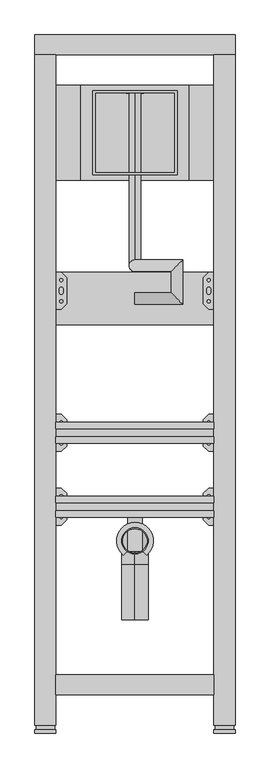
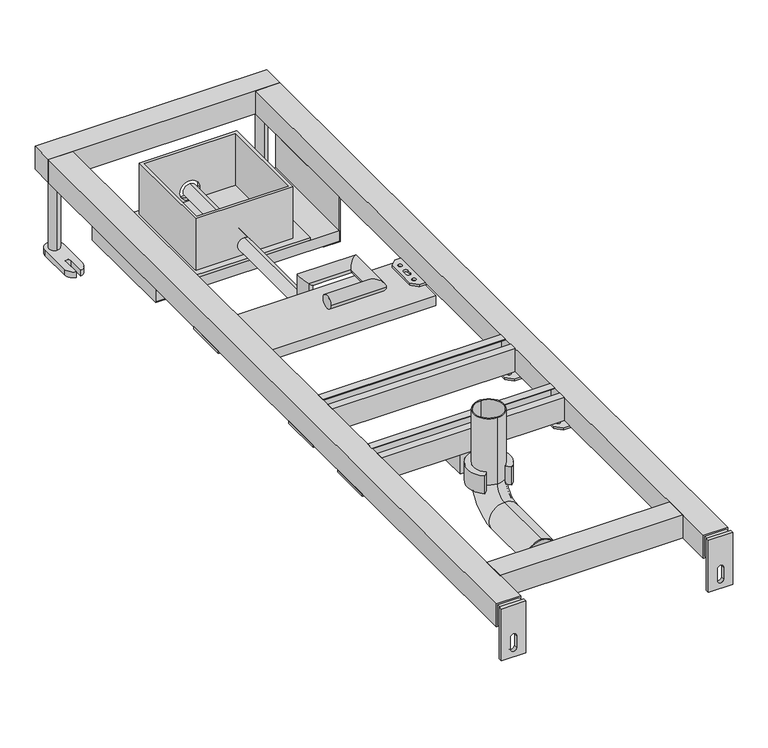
"""IFC4 building model written with IfcOpenShell, lengths in millimetres: flow terminal geometry, LIV-FIX UR 135 IR 9V : LIV-FIX UR 135 IR 9V."""

from ifc_helpers import new_model, si_unit, point, frame, frame_2d, origin, origin_with_axes, place, context, project, spatial, polyline, circle_curve, ellipse_curve, trimmed, segment, composite_curve, outline, extrude, source, transform, mapped, element, save
from ifc_brep_helpers import plane_surface, cylinder_surface, revolved_surface, advanced_brep


def flow_terminal_df86a21f(model_context):
    return source(origin(), model_context, "Body", "SolidModel", [
        advanced_brep(
        [(0.0, 614.0, 147.378088), (0.0, 636.0, 147.378088), (91.0, 614.0, 147.378088), (69.0, 636.0, 147.378088), (91.0, 698.5546816, 147.378088), (69.0, 676.5546816, 147.378088), (0.0, 698.5546816, 147.378088), (0.0, 676.5546816, 147.378088), (0.0, 698.5546816, 115.5), (0.0, 676.5546816, 93.5), (0.0, 1015.0167019, 115.5), (0.0, 1015.0167019, 93.5)],
        [
            (0, 1, circle_curve(frame((0.0, 625.0, 147.378088), z_axis=(-1.0, 0.0, 0.0), x_axis=(0.0, 1.0, 0.0)), 11.0)),
            (1, 0, circle_curve(frame((0.0, 625.0, 147.378088), z_axis=(-1.0, 0.0, 0.0), x_axis=(0.0, 1.0, 0.0)), 11.0)),
            (0, 2),
            (2, 3, ellipse_curve(frame((80.0, 625.0, 147.378088), z_axis=(-0.7071067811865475, -0.7071067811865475, 0.0), x_axis=(-0.7071067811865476, 0.7071067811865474, 0.0)), 15.5563492, 11.0)),
            (3, 1),
            (3, 2, ellipse_curve(frame((80.0, 625.0, 147.378088), z_axis=(-0.7071067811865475, -0.7071067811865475, 0.0), x_axis=(-0.7071067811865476, 0.7071067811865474, 0.0)), 15.5563492, 11.0)),
            (2, 4),
            (4, 5, ellipse_curve(frame((80.0, 687.5546816, 147.378088), z_axis=(0.7071067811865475, -0.7071067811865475, 0.0), x_axis=(-0.7071067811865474, -0.7071067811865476, 0.0)), 15.5563492, 11.0)),
            (5, 3),
            (5, 4, ellipse_curve(frame((80.0, 687.5546816, 147.378088), z_axis=(0.7071067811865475, -0.7071067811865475, 0.0), x_axis=(-0.7071067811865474, -0.7071067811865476, 0.0)), 15.5563492, 11.0)),
            (4, 6),
            (6, 7, ellipse_curve(frame((0.0, 687.5546816, 147.378088), z_axis=(0.7071067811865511, 0.0, 0.7071067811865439), x_axis=(0.7071067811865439, 0.0, -0.7071067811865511)), 15.5563492, 11.0)),
            (7, 5),
            (7, 6, ellipse_curve(frame((0.0, 687.5546816, 147.378088), z_axis=(0.7071067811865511, 0.0, 0.7071067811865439), x_axis=(0.7071067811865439, 0.0, -0.7071067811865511)), 15.5563492, 11.0)),
            (6, 8),
            (8, 9, ellipse_curve(frame((0.0, 687.5546816, 104.5), z_axis=(0.0, -0.7071067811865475, 0.7071067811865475), x_axis=(0.0, 0.7071067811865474, 0.7071067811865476)), 15.5563492, 11.0)),
            (9, 7),
            (9, 8, ellipse_curve(frame((0.0, 687.5546816, 104.5), z_axis=(0.0, -0.7071067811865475, 0.7071067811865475), x_axis=(0.0, 0.7071067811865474, 0.7071067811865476)), 15.5563492, 11.0)),
            (10, 11, circle_curve(frame((0.0, 1015.0167019, 104.5), z_axis=(0.0, 1.0, 0.0), x_axis=(0.0, 0.0, -1.0)), 11.0)),
            (11, 10, circle_curve(frame((0.0, 1015.0167019, 104.5), z_axis=(0.0, 1.0, 0.0), x_axis=(0.0, 0.0, -1.0)), 11.0)),
            (8, 10),
            (11, 9),
        ],
        [
            plane_surface(frame((0.0, 625.0, 136.378088), z_axis=(-1.0, 0.0, 0.0), x_axis=(0.0, 1.0, 0.0))),
            cylinder_surface(frame((0.0, 625.0, 147.378088), z_axis=(-1.0, 0.0, 0.0), x_axis=(0.0, 1.0, 0.0)), 11.0),
            cylinder_surface(frame((80.0, 625.0, 147.378088), z_axis=(0.0, -1.0, 0.0), x_axis=(-1.0, 0.0, 0.0)), 11.0),
            cylinder_surface(frame((80.0, 687.5546816, 147.378088), z_axis=(1.0, 0.0, 0.0), x_axis=(0.0, -1.0, 0.0)), 11.0),
            cylinder_surface(frame((0.0, 687.5546816, 147.378088), z_axis=(0.0, 0.0, 1.0), x_axis=(0.0, -1.0, 0.0)), 11.0),
            plane_surface(frame((-11.0, 1015.0167019, 104.5), z_axis=(0.0, 1.0, 0.0), x_axis=(0.0, 0.0, 1.0))),
            cylinder_surface(frame((0.0, 687.5546816, 104.5), z_axis=(0.0, -1.0, 0.0), x_axis=(0.0, 0.0, -1.0)), 11.0),
        ],
        [
            (0, [[1, 2]]),
            (1, [[-1, 3, 4, 5]]),
            (1, [[-2, -5, 6, -3]]),
            (2, [[-4, 7, 8, 9]]),
            (2, [[-6, -9, 10, -7]]),
            (3, [[-8, 11, 12, 13]]),
            (3, [[-10, -13, 14, -11]]),
            (4, [[-12, 15, 16, 17]]),
            (4, [[-14, -17, 18, -15]]),
            (5, [[19, 20]]),
            (6, [[-16, 21, -20, 22]]),
            (6, [[-18, -22, -19, -21]]),
        ],
    ),
        extrude(outline(polyline([(102.4676142, 1030.1667019), (102.4676142, 850.0770204), (-102.5323858, 850.0770204), (-102.5323858, 1030.1667019), (102.4676142, 1030.1667019)])), frame((0.0, 0.0, 81.5), z_axis=(0.0, 0.0, 1.0), x_axis=(1.0, 0.0, 0.0)), (0.0, 0.0, 1.0), 5.0),
        advanced_brep(
        [(-79.85, 1020.0167019, 176.5), (-79.85, 860.2270204, 176.5), (79.85, 860.2270204, 176.5), (79.85, 1020.0167019, 176.5), (74.85, 1015.0167019, 176.5), (74.85, 865.2270204, 176.5), (-74.85, 865.2270204, 176.5), (-74.85, 1015.0167019, 176.5), (-79.85, 1020.0167019, 81.5), (79.85, 1020.0167019, 81.5), (79.85, 860.2270204, 81.5), (-79.85, 860.2270204, 81.5), (74.85, 1015.0167019, 81.5), (-74.85, 1015.0167019, 81.5), (-74.85, 865.2270204, 81.5), (74.85, 865.2270204, 81.5), (11.0, 865.2270204, 104.5), (-11.0, 865.2270204, 104.5), (-16.25, 1015.0167019, 104.5), (16.25, 1015.0167019, 104.5), (-11.0, 860.2270204, 104.5), (11.0, 860.2270204, 104.5), (16.25, 1020.0167019, 104.5), (-16.25, 1020.0167019, 104.5)],
        [
            (0, 1),
            (1, 2),
            (2, 3),
            (3, 0),
            (4, 5),
            (5, 6),
            (6, 7),
            (7, 4),
            (8, 9),
            (9, 10),
            (10, 11),
            (11, 8),
            (12, 13),
            (13, 14),
            (14, 15),
            (15, 12),
            (4, 12),
            (15, 5),
            (14, 6),
            (16, 17, circle_curve(frame((0.0, 865.2270204, 104.5), z_axis=(0.0, -1.0, 0.0), x_axis=(1.0, 0.0, 0.0)), 11.0)),
            (17, 16, circle_curve(frame((0.0, 865.2270204, 104.5), z_axis=(0.0, -1.0, 0.0), x_axis=(1.0, 0.0, 0.0)), 11.0)),
            (13, 7),
            (18, 19, circle_curve(frame((0.0, 1015.0167019, 104.5), z_axis=(0.0, 1.0, 0.0), x_axis=(-1.0, 0.0, 0.0)), 16.25)),
            (19, 18, circle_curve(frame((0.0, 1015.0167019, 104.5), z_axis=(0.0, 1.0, 0.0), x_axis=(-1.0, 0.0, 0.0)), 16.25)),
            (0, 8),
            (11, 1),
            (10, 2),
            (20, 21, circle_curve(frame((0.0, 860.2270204, 104.5), z_axis=(0.0, 1.0, 0.0), x_axis=(1.0, 0.0, 0.0)), 11.0)),
            (21, 20, circle_curve(frame((0.0, 860.2270204, 104.5), z_axis=(0.0, 1.0, 0.0), x_axis=(1.0, 0.0, 0.0)), 11.0)),
            (9, 3),
            (22, 23, circle_curve(frame((0.0, 1020.0167019, 104.5), z_axis=(0.0, -1.0, 0.0), x_axis=(-1.0, 0.0, 0.0)), 16.25)),
            (23, 22, circle_curve(frame((0.0, 1020.0167019, 104.5), z_axis=(0.0, -1.0, 0.0), x_axis=(-1.0, 0.0, 0.0)), 16.25)),
            (22, 19),
            (18, 23),
            (20, 17),
            (16, 21),
        ],
        [
            plane_surface(frame((74.85, 1015.0167019, 176.5), z_axis=(0.0, 0.0, 1.0), x_axis=(0.0, -1.0, 0.0))),
            plane_surface(frame((74.85, 1015.0167019, 81.5), z_axis=(0.0, 0.0, -1.0), x_axis=(0.0, 1.0, 0.0))),
            plane_surface(frame((74.85, 1015.0167019, 176.5), z_axis=(-1.0, 0.0, 0.0), x_axis=(0.0, 0.0, -1.0))),
            plane_surface(frame((74.85, 865.2270204, 176.5), z_axis=(0.0, 1.0, 0.0), x_axis=(0.0, 0.0, -1.0))),
            plane_surface(frame((-74.85, 865.2270204, 176.5), z_axis=(1.0, 0.0, 0.0), x_axis=(0.0, 0.0, -1.0))),
            plane_surface(frame((-74.85, 1015.0167019, 176.5), z_axis=(0.0, -1.0, 0.0), x_axis=(0.0, 0.0, -1.0))),
            plane_surface(frame((-79.85, 1020.0167019, 176.5), z_axis=(-1.0, 0.0, 0.0), x_axis=(0.0, 0.0, -1.0))),
            plane_surface(frame((-79.85, 860.2270204, 176.5), z_axis=(0.0, -1.0, 0.0), x_axis=(0.0, 0.0, -1.0))),
            plane_surface(frame((79.85, 860.2270204, 176.5), z_axis=(1.0, 0.0, 0.0), x_axis=(0.0, 0.0, -1.0))),
            plane_surface(frame((79.85, 1020.0167019, 176.5), z_axis=(0.0, 1.0, 0.0), x_axis=(0.0, 0.0, -1.0))),
            revolved_surface(polyline([(-16.25, 1015.0167019, 104.5), (-16.25, 1020.0167019, 104.5)]), (0.0, 1020.0167019, 104.5), (0.0, -1.0, 0.0)),
            revolved_surface(polyline([(11.0, 865.2270204, 104.5), (11.0, 860.2270204, 104.5)]), (0.0, 860.2270204, 104.5), (0.0, 1.0, 0.0)),
        ],
        [
            (0, [[1, 2, 3, 4], [5, 6, 7, 8]]),
            (1, [[9, 10, 11, 12], [13, 14, 15, 16]]),
            (2, [[-5, 17, -16, 18]]),
            (3, [[-6, -18, -15, 19], [20, 21]]),
            (4, [[-7, -19, -14, 22]]),
            (5, [[-8, -22, -13, -17], [23, 24]]),
            (6, [[-1, 25, -12, 26]]),
            (7, [[-2, -26, -11, 27], [28, 29]]),
            (8, [[-3, -27, -10, 30]]),
            (9, [[-4, -30, -9, -25], [31, 32]]),
            (10, [[33, -23, 34, -31]]),
            (10, [[-33, -32, -34, -24]]),
            (11, [[35, -20, 36, -28]]),
            (11, [[-35, -29, -36, -21]]),
        ],
    ),
        extrude(outline(polyline([(150.0, 1030.1667019), (150.0, 850.0770204), (-150.0, 850.0770204), (-150.0, 1030.1667019), (150.0, 1030.1667019)])), frame((0.0, 0.0, 63.5), z_axis=(0.0, 0.0, 1.0), x_axis=(1.0, 0.0, 0.0)), (0.0, 0.0, 1.0), 18.0),
        extrude(outline(polyline([(140.0, 185.0), (140.0, 150.0), (63.5, 150.0), (63.5, 123.5), (62.0, 123.5), (62.0, 151.5), (138.5, 151.5), (138.5, 185.0), (140.0, 185.0)])), frame((0.0, 850.0770204, 0.0), z_axis=(0.0, 1.0, 0.0), x_axis=(0.0, 0.0, 1.0)), (0.0, 0.0, 1.0), 180.0896815),
        extrude(outline(polyline([(140.0, -185.0), (138.5, -185.0), (138.5, -151.5), (62.0, -151.5), (62.0, -123.5), (63.5, -123.5), (63.5, -150.0), (140.0, -150.0), (140.0, -185.0)])), frame((0.0, 850.0770204, 0.0), z_axis=(0.0, 1.0, 0.0), x_axis=(0.0, 0.0, 1.0)), (0.0, 0.0, 1.0), 180.0896815),
        extrude(outline(polyline([(350.0, 180.0), (362.4845167, 180.0), (362.4845167, 178.5), (351.5, 178.5), (351.5, 141.5), (388.5, 141.5), (388.5, 178.5), (377.5154833, 178.5), (377.5154833, 180.0), (390.0, 180.0), (390.0, 140.0), (350.0, 140.0), (350.0, 180.0)])), frame((-150.0, 0.0, 0.0), z_axis=(1.0, 0.0, 0.0), x_axis=(0.0, 1.0, 0.0)), (0.0, 0.0, 1.0), 300.0),
        extrude(outline(polyline([(140.0, 335.0), (130.0, 345.0), (130.0, 395.0), (140.0, 405.0), (190.0, 405.0), (190.0, 335.0), (140.0, 335.0)]), holes=[composite_curve([segment(trimmed(circle_curve(frame_2d((175.0, 370.0)), 4.5), [point((175.0, 365.5))], [point((175.0, 374.5))], True, "CARTESIAN"), True, "CONTINUOUS"), segment(trimmed(circle_curve(frame_2d((175.0, 370.0)), 4.5), [point((175.0, 374.5))], [point((175.0, 365.5))], True, "CARTESIAN"), True, "CONTINUOUS")], self_intersect=False), composite_curve([segment(trimmed(circle_curve(frame_2d((175.0, 390.0)), 4.5), [point((175.0, 385.5))], [point((175.0, 394.5))], True, "CARTESIAN"), True, "CONTINUOUS"), segment(trimmed(circle_curve(frame_2d((175.0, 390.0)), 4.5), [point((175.0, 394.5))], [point((175.0, 385.5))], True, "CARTESIAN"), True, "CONTINUOUS")], self_intersect=False), composite_curve([segment(trimmed(circle_curve(frame_2d((175.0, 350.0)), 4.5), [point((175.0, 345.5))], [point((175.0, 354.5))], True, "CARTESIAN"), True, "CONTINUOUS"), segment(trimmed(circle_curve(frame_2d((175.0, 350.0)), 4.5), [point((175.0, 354.5))], [point((175.0, 345.5))], True, "CARTESIAN"), True, "CONTINUOUS")], self_intersect=False), composite_curve([segment(trimmed(circle_curve(frame_2d((140.0, 390.0)), 2.9795218), [point((140.0, 387.0204782))], [point((140.0, 392.9795218))], True, "CARTESIAN"), True, "CONTINUOUS"), segment(trimmed(circle_curve(frame_2d((140.0, 390.0)), 2.9795218), [point((140.0, 392.9795218))], [point((140.0, 387.0204782))], True, "CARTESIAN"), True, "CONTINUOUS")], self_intersect=False), composite_curve([segment(trimmed(circle_curve(frame_2d((140.0, 350.0)), 2.9795218), [point((140.0, 347.0204782))], [point((140.0, 352.9795218))], True, "CARTESIAN"), True, "CONTINUOUS"), segment(trimmed(circle_curve(frame_2d((140.0, 350.0)), 2.9795218), [point((140.0, 352.9795218))], [point((140.0, 347.0204782))], True, "CARTESIAN"), True, "CONTINUOUS")], self_intersect=False), composite_curve([segment(trimmed(circle_curve(frame_2d((140.0, 373.5)), 3.5), [point((143.5, 373.5))], [point((136.5, 373.5))], True, "CARTESIAN"), True, "CONTINUOUS"), segment(polyline([(136.5, 373.5), (136.5, 366.5)]), True, "CONTINUOUS"), segment(trimmed(circle_curve(frame_2d((140.0, 366.5)), 3.5), [point((136.5, 366.5))], [point((143.5, 366.5))], True, "CARTESIAN"), True, "CONTINUOUS"), segment(polyline([(143.5, 366.5), (143.5, 373.5)]), True, "CONTINUOUS")], self_intersect=False)]), frame((0.0, 0.0, 136.0), z_axis=(0.0, 0.0, 1.0), x_axis=(1.0, 0.0, 0.0)), (0.0, 0.0, 1.0), 4.0),
        extrude(outline(polyline([(-140.0, 335.0), (-190.0, 335.0), (-190.0, 405.0), (-140.0, 405.0), (-130.0, 395.0), (-130.0, 345.0), (-140.0, 335.0)]), holes=[composite_curve([segment(trimmed(circle_curve(frame_2d((-175.0, 370.0)), 4.5), [point((-175.0, 365.5))], [point((-175.0, 374.5))], True, "CARTESIAN"), True, "CONTINUOUS"), segment(trimmed(circle_curve(frame_2d((-175.0, 370.0)), 4.5), [point((-175.0, 374.5))], [point((-175.0, 365.5))], True, "CARTESIAN"), True, "CONTINUOUS")], self_intersect=False), composite_curve([segment(trimmed(circle_curve(frame_2d((-175.0, 390.0)), 4.5), [point((-175.0, 385.5))], [point((-175.0, 394.5))], True, "CARTESIAN"), True, "CONTINUOUS"), segment(trimmed(circle_curve(frame_2d((-175.0, 390.0)), 4.5), [point((-175.0, 394.5))], [point((-175.0, 385.5))], True, "CARTESIAN"), True, "CONTINUOUS")], self_intersect=False), composite_curve([segment(trimmed(circle_curve(frame_2d((-175.0, 350.0)), 4.5), [point((-175.0, 345.5))], [point((-175.0, 354.5))], True, "CARTESIAN"), True, "CONTINUOUS"), segment(trimmed(circle_curve(frame_2d((-175.0, 350.0)), 4.5), [point((-175.0, 354.5))], [point((-175.0, 345.5))], True, "CARTESIAN"), True, "CONTINUOUS")], self_intersect=False), composite_curve([segment(trimmed(circle_curve(frame_2d((-140.0, 390.0)), 2.9795218), [point((-140.0, 387.0204782))], [point((-140.0, 392.9795218))], True, "CARTESIAN"), True, "CONTINUOUS"), segment(trimmed(circle_curve(frame_2d((-140.0, 390.0)), 2.9795218), [point((-140.0, 392.9795218))], [point((-140.0, 387.0204782))], True, "CARTESIAN"), True, "CONTINUOUS")], self_intersect=False), composite_curve([segment(trimmed(circle_curve(frame_2d((-140.0, 350.0)), 2.9795218), [point((-140.0, 347.0204782))], [point((-140.0, 352.9795218))], True, "CARTESIAN"), True, "CONTINUOUS"), segment(trimmed(circle_curve(frame_2d((-140.0, 350.0)), 2.9795218), [point((-140.0, 352.9795218))], [point((-140.0, 347.0204782))], True, "CARTESIAN"), True, "CONTINUOUS")], self_intersect=False), composite_curve([segment(polyline([(-143.5, 373.5), (-143.5, 366.5)]), True, "CONTINUOUS"), segment(trimmed(circle_curve(frame_2d((-140.0, 366.5)), 3.5), [point((-143.5, 366.5))], [point((-136.5, 366.5))], True, "CARTESIAN"), True, "CONTINUOUS"), segment(polyline([(-136.5, 366.5), (-136.5, 373.5)]), True, "CONTINUOUS"), segment(trimmed(circle_curve(frame_2d((-140.0, 373.5)), 3.5), [point((-136.5, 373.5))], [point((-143.5, 373.5))], True, "CARTESIAN"), True, "CONTINUOUS")], self_intersect=False)]), frame((0.0, 0.0, 136.0), z_axis=(0.0, 0.0, 1.0), x_axis=(1.0, 0.0, 0.0)), (0.0, 0.0, 1.0), 4.0),
        extrude(outline(polyline([(150.0, 675.0), (150.0, 575.0), (-150.0, 575.0), (-150.0, 675.0), (150.0, 675.0)])), frame((0.0, 0.0, 118.0), z_axis=(0.0, 0.0, 1.0), x_axis=(1.0, 0.0, 0.0)), (0.0, 0.0, 1.0), 18.0),
        advanced_brep(
        [(-14.0, 145.7552373, 116.5), (14.0, 145.7552373, 116.5), (14.0, 145.7552373, 130.0), (-14.0, 145.7552373, 130.0), (-14.0, 250.0, 116.5), (-14.0, 250.0, 130.0), (14.0, 250.0, 130.0), (14.0, 250.0, 116.5), (-14.0, 185.7123152, 116.5), (-15.0727332, 145.0547571, 116.5), (-22.1922786, 137.9352116, 116.5), (-14.0, 197.0780299, 116.5), (14.0, 197.0780299, 116.5), (22.1922786, 137.9352116, 116.5), (15.0727332, 145.0547571, 116.5), (14.0, 185.7123152, 116.5), (14.0, 185.7123152, 130.0), (14.0, 197.0780299, 130.0), (-14.0, 185.7123152, 130.0), (-14.0, 197.0780299, 130.0), (0.0, 200.0, 130.0), (15.0727332, 145.0547571, 147.5), (22.1922786, 137.9352116, 147.5), (0.0, 200.0, 147.5), (-22.1922786, 137.9352116, 147.5), (-15.0727332, 145.0547571, 147.5)],
        [
            (0, 1),
            (1, 2),
            (2, 3),
            (3, 0),
            (4, 5),
            (5, 6),
            (6, 7),
            (7, 4),
            (0, 8),
            (8, 9, circle_curve(frame((0.0, 165.0, 116.5), z_axis=(0.0, 0.0, 1.0), x_axis=(0.0, -1.0, 0.0)), 25.0)),
            (9, 10),
            (10, 11, circle_curve(frame((0.0, 165.0, 116.5), z_axis=(0.0, 0.0, -1.0), x_axis=(0.0, -1.0, 0.0)), 35.0)),
            (11, 4),
            (7, 12),
            (12, 13, circle_curve(frame((0.0, 165.0, 116.5), z_axis=(0.0, 0.0, -1.0), x_axis=(0.0, -1.0, 0.0)), 35.0)),
            (13, 14),
            (14, 15, circle_curve(frame((0.0, 165.0, 116.5), z_axis=(0.0, 0.0, 1.0), x_axis=(0.0, -1.0, 0.0)), 25.0)),
            (15, 1),
            (15, 16),
            (16, 2),
            (6, 17),
            (17, 12),
            (16, 18, circle_curve(frame((0.0, 165.0, 130.0), z_axis=(0.0, 0.0, 1.0), x_axis=(0.0, -1.0, 0.0)), 25.0)),
            (18, 3),
            (5, 19),
            (19, 20, circle_curve(frame((0.0, 165.0, 130.0), z_axis=(0.0, 0.0, -1.0), x_axis=(0.0, -1.0, 0.0)), 35.0)),
            (20, 17, circle_curve(frame((0.0, 165.0, 130.0), z_axis=(0.0, 0.0, -1.0), x_axis=(0.0, -1.0, 0.0)), 35.0)),
            (18, 8),
            (11, 19),
            (21, 22),
            (22, 23, circle_curve(frame((0.0, 165.0, 147.5), z_axis=(0.0, 0.0, 1.0), x_axis=(0.0, -1.0, 0.0)), 35.0)),
            (23, 24, circle_curve(frame((0.0, 165.0, 147.5), z_axis=(0.0, 0.0, 1.0), x_axis=(0.0, -1.0, 0.0)), 35.0)),
            (24, 25),
            (25, 21, circle_curve(frame((0.0, 165.0, 147.5), z_axis=(0.0, 0.0, -1.0), x_axis=(0.0, -1.0, 0.0)), 25.0)),
            (25, 9),
            (14, 21),
            (24, 10),
            (23, 20),
            (22, 13),
        ],
        [
            plane_surface(frame((-14.0, 145.7552373, 116.5), z_axis=(0.0, -1.0, 0.0), x_axis=(0.0, 0.0, -1.0))),
            plane_surface(frame((-14.0, 250.0, 116.5), z_axis=(0.0, 1.0, 0.0), x_axis=(0.0, 0.0, 1.0))),
            plane_surface(frame((14.0, 250.0, 116.5), z_axis=(0.0, 0.0, -1.0), x_axis=(0.0, -1.0, 0.0))),
            plane_surface(frame((14.0, 250.0, 130.0), z_axis=(1.0, 0.0, 0.0), x_axis=(0.0, -1.0, 0.0))),
            plane_surface(frame((-14.0, 250.0, 130.0), z_axis=(0.0, 0.0, 1.0), x_axis=(0.0, -1.0, 0.0))),
            plane_surface(frame((-14.0, 250.0, 116.5), z_axis=(-1.0, 0.0, 0.0), x_axis=(0.0, -1.0, 0.0))),
            plane_surface(frame((0.0, 140.0, 147.5), z_axis=(0.0, 0.0, 1.0), x_axis=(-1.0, 0.0, 0.0))),
            revolved_surface(polyline([(0.0, 140.0, 147.5), (0.0, 140.0, 116.5)]), (0.0, 165.0, 147.5), (0.0, 0.0, 1.0)),
            plane_surface(frame((-15.0727332, 145.0547571, 116.5), z_axis=(0.7071067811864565, -0.7071067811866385, 0.0), x_axis=(0.0, 0.0, 1.0))),
            cylinder_surface(frame((0.0, 165.0, 147.5), z_axis=(0.0, 0.0, -1.0), x_axis=(0.0, -1.0, 0.0)), 35.0),
            plane_surface(frame((22.1922786, 137.9352116, 116.5), z_axis=(-0.707106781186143, -0.7071067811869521, 0.0), x_axis=(0.0, 0.0, 1.0))),
        ],
        [
            (0, [[1, 2, 3, 4]]),
            (1, [[5, 6, 7, 8]]),
            (2, [[-1, 9, 10, 11, 12, 13, -8, 14, 15, 16, 17, 18]]),
            (3, [[-2, -18, 19, 20]]),
            (3, [[-7, 21, 22, -14]]),
            (4, [[-3, -20, 23, 24]]),
            (4, [[-6, 25, 26, 27, -21]]),
            (5, [[-4, -24, 28, -9]]),
            (5, [[-5, -13, 29, -25]]),
            (6, [[30, 31, 32, 33, 34]]),
            (7, [[-34, 35, -10, -28, -23, -19, -17, 36]]),
            (8, [[-33, 37, -11, -35]]),
            (9, [[-32, 38, -26, -29, -12, -37]]),
            (9, [[-31, 39, -15, -22, -27, -38]]),
            (10, [[-30, -36, -16, -39]]),
        ],
    ),
        extrude(outline(polyline([(210.0, 180.0), (222.4845167, 180.0), (222.4845167, 178.5), (211.5, 178.5), (211.5, 141.5), (248.5, 141.5), (248.5, 178.5), (237.5154833, 178.5), (237.5154833, 180.0), (250.0, 180.0), (250.0, 140.0), (210.0, 140.0), (210.0, 180.0)])), frame((-150.0, 0.0, 0.0), z_axis=(1.0, 0.0, 0.0), x_axis=(0.0, 1.0, 0.0)), (0.0, 0.0, 1.0), 300.0),
        extrude(outline(polyline([(140.0, 605.0), (130.0, 615.0), (130.0, 665.0), (140.0, 675.0), (190.0, 675.0), (190.0, 605.0), (140.0, 605.0)]), holes=[composite_curve([segment(trimmed(circle_curve(frame_2d((175.0, 640.0)), 4.5), [point((175.0, 635.5))], [point((175.0, 644.5))], True, "CARTESIAN"), True, "CONTINUOUS"), segment(trimmed(circle_curve(frame_2d((175.0, 640.0)), 4.5), [point((175.0, 644.5))], [point((175.0, 635.5))], True, "CARTESIAN"), True, "CONTINUOUS")], self_intersect=False), composite_curve([segment(trimmed(circle_curve(frame_2d((175.0, 660.0)), 4.5), [point((175.0, 655.5))], [point((175.0, 664.5))], True, "CARTESIAN"), True, "CONTINUOUS"), segment(trimmed(circle_curve(frame_2d((175.0, 660.0)), 4.5), [point((175.0, 664.5))], [point((175.0, 655.5))], True, "CARTESIAN"), True, "CONTINUOUS")], self_intersect=False), composite_curve([segment(trimmed(circle_curve(frame_2d((175.0, 620.0)), 4.5), [point((175.0, 615.5))], [point((175.0, 624.5))], True, "CARTESIAN"), True, "CONTINUOUS"), segment(trimmed(circle_curve(frame_2d((175.0, 620.0)), 4.5), [point((175.0, 624.5))], [point((175.0, 615.5))], True, "CARTESIAN"), True, "CONTINUOUS")], self_intersect=False), composite_curve([segment(trimmed(circle_curve(frame_2d((140.0, 660.0)), 2.9795218), [point((140.0, 657.0204782))], [point((140.0, 662.9795218))], True, "CARTESIAN"), True, "CONTINUOUS"), segment(trimmed(circle_curve(frame_2d((140.0, 660.0)), 2.9795218), [point((140.0, 662.9795218))], [point((140.0, 657.0204782))], True, "CARTESIAN"), True, "CONTINUOUS")], self_intersect=False), composite_curve([segment(trimmed(circle_curve(frame_2d((140.0, 620.0)), 2.9795218), [point((140.0, 617.0204782))], [point((140.0, 622.9795218))], True, "CARTESIAN"), True, "CONTINUOUS"), segment(trimmed(circle_curve(frame_2d((140.0, 620.0)), 2.9795218), [point((140.0, 622.9795218))], [point((140.0, 617.0204782))], True, "CARTESIAN"), True, "CONTINUOUS")], self_intersect=False), composite_curve([segment(trimmed(circle_curve(frame_2d((140.0, 643.5)), 3.5), [point((143.5, 643.5))], [point((136.5, 643.5))], True, "CARTESIAN"), True, "CONTINUOUS"), segment(polyline([(136.5, 643.5), (136.5, 636.5)]), True, "CONTINUOUS"), segment(trimmed(circle_curve(frame_2d((140.0, 636.5)), 3.5), [point((136.5, 636.5))], [point((143.5, 636.5))], True, "CARTESIAN"), True, "CONTINUOUS"), segment(polyline([(143.5, 636.5), (143.5, 643.5)]), True, "CONTINUOUS")], self_intersect=False)]), frame((0.0, 0.0, 136.0), z_axis=(0.0, 0.0, 1.0), x_axis=(1.0, 0.0, 0.0)), (0.0, 0.0, 1.0), 4.0),
        extrude(outline(polyline([(-140.0, 605.0), (-190.0, 605.0), (-190.0, 675.0), (-140.0, 675.0), (-130.0, 665.0), (-130.0, 615.0), (-140.0, 605.0)]), holes=[composite_curve([segment(trimmed(circle_curve(frame_2d((-175.0, 640.0)), 4.5), [point((-175.0, 635.5))], [point((-175.0, 644.5))], True, "CARTESIAN"), True, "CONTINUOUS"), segment(trimmed(circle_curve(frame_2d((-175.0, 640.0)), 4.5), [point((-175.0, 644.5))], [point((-175.0, 635.5))], True, "CARTESIAN"), True, "CONTINUOUS")], self_intersect=False), composite_curve([segment(trimmed(circle_curve(frame_2d((-175.0, 660.0)), 4.5), [point((-175.0, 655.5))], [point((-175.0, 664.5))], True, "CARTESIAN"), True, "CONTINUOUS"), segment(trimmed(circle_curve(frame_2d((-175.0, 660.0)), 4.5), [point((-175.0, 664.5))], [point((-175.0, 655.5))], True, "CARTESIAN"), True, "CONTINUOUS")], self_intersect=False), composite_curve([segment(trimmed(circle_curve(frame_2d((-175.0, 620.0)), 4.5), [point((-175.0, 615.5))], [point((-175.0, 624.5))], True, "CARTESIAN"), True, "CONTINUOUS"), segment(trimmed(circle_curve(frame_2d((-175.0, 620.0)), 4.5), [point((-175.0, 624.5))], [point((-175.0, 615.5))], True, "CARTESIAN"), True, "CONTINUOUS")], self_intersect=False), composite_curve([segment(trimmed(circle_curve(frame_2d((-140.0, 660.0)), 2.9795218), [point((-140.0, 657.0204782))], [point((-140.0, 662.9795218))], True, "CARTESIAN"), True, "CONTINUOUS"), segment(trimmed(circle_curve(frame_2d((-140.0, 660.0)), 2.9795218), [point((-140.0, 662.9795218))], [point((-140.0, 657.0204782))], True, "CARTESIAN"), True, "CONTINUOUS")], self_intersect=False), composite_curve([segment(trimmed(circle_curve(frame_2d((-140.0, 620.0)), 2.9795218), [point((-140.0, 617.0204782))], [point((-140.0, 622.9795218))], True, "CARTESIAN"), True, "CONTINUOUS"), segment(trimmed(circle_curve(frame_2d((-140.0, 620.0)), 2.9795218), [point((-140.0, 622.9795218))], [point((-140.0, 617.0204782))], True, "CARTESIAN"), True, "CONTINUOUS")], self_intersect=False), composite_curve([segment(polyline([(-143.5, 643.5), (-143.5, 636.5)]), True, "CONTINUOUS"), segment(trimmed(circle_curve(frame_2d((-140.0, 636.5)), 3.5), [point((-143.5, 636.5))], [point((-136.5, 636.5))], True, "CARTESIAN"), True, "CONTINUOUS"), segment(polyline([(-136.5, 636.5), (-136.5, 643.5)]), True, "CONTINUOUS"), segment(trimmed(circle_curve(frame_2d((-140.0, 643.5)), 3.5), [point((-136.5, 643.5))], [point((-143.5, 643.5))], True, "CARTESIAN"), True, "CONTINUOUS")], self_intersect=False)]), frame((0.0, 0.0, 136.0), z_axis=(0.0, 0.0, 1.0), x_axis=(1.0, 0.0, 0.0)), (0.0, 0.0, 1.0), 4.0),
        advanced_brep(
        [(0.0, 15.0, 55.0), (0.0, 15.0, 105.0), (0.0, 15.0, 57.0), (0.0, 15.0, 103.0), (0.0, 120.0, 55.0), (0.0, 120.0, 105.0), (0.0, 190.0, 240.0), (0.0, 140.0, 240.0), (0.0, 188.0, 240.0), (0.0, 142.0, 240.0), (0.0, 140.0, 125.0), (0.0, 190.0, 125.0), (0.0, 120.0, 57.0), (0.0, 120.0, 103.0), (0.0, 142.0, 125.0), (0.0, 188.0, 125.0)],
        [
            (0, 1, circle_curve(frame((0.0, 15.0, 80.0), z_axis=(0.0, -1.0, 0.0), x_axis=(0.0, 0.0, 1.0)), 25.0)),
            (1, 0, circle_curve(frame((0.0, 15.0, 80.0), z_axis=(0.0, -1.0, 0.0), x_axis=(0.0, 0.0, 1.0)), 25.0)),
            (2, 3, circle_curve(frame((0.0, 15.0, 80.0), z_axis=(0.0, 1.0, 0.0), x_axis=(0.0, 0.0, 1.0)), 23.0)),
            (3, 2, circle_curve(frame((0.0, 15.0, 80.0), z_axis=(0.0, 1.0, 0.0), x_axis=(0.0, 0.0, 1.0)), 23.0)),
            (0, 4),
            (4, 5, circle_curve(frame((0.0, 120.0, 80.0), z_axis=(0.0, -1.0, 0.0), x_axis=(0.0, 0.0, 1.0)), 25.0)),
            (5, 1),
            (5, 4, circle_curve(frame((0.0, 120.0, 80.0), z_axis=(0.0, -1.0, 0.0), x_axis=(0.0, 0.0, 1.0)), 25.0)),
            (6, 7, circle_curve(frame((0.0, 165.0, 240.0), z_axis=(0.0, 0.0, 1.0), x_axis=(0.0, -1.0, 0.0)), 25.0)),
            (7, 6, circle_curve(frame((0.0, 165.0, 240.0), z_axis=(0.0, 0.0, 1.0), x_axis=(0.0, -1.0, 0.0)), 25.0)),
            (8, 9, circle_curve(frame((0.0, 165.0, 240.0), z_axis=(0.0, 0.0, -1.0), x_axis=(0.0, -1.0, 0.0)), 23.0)),
            (9, 8, circle_curve(frame((0.0, 165.0, 240.0), z_axis=(0.0, 0.0, -1.0), x_axis=(0.0, -1.0, 0.0)), 23.0)),
            (10, 11, circle_curve(frame((0.0, 165.0, 125.0), z_axis=(0.0, 0.0, 1.0), x_axis=(0.0, -1.0, 0.0)), 25.0)),
            (11, 6),
            (7, 10),
            (11, 10, circle_curve(frame((0.0, 165.0, 125.0), z_axis=(0.0, 0.0, 1.0), x_axis=(0.0, -1.0, 0.0)), 25.0)),
            (10, 5, circle_curve(frame((0.0, 120.0, 125.0), z_axis=(-1.0, 0.0, 0.0), x_axis=(0.0, 0.0, -1.0)), 20.0)),
            (4, 11, circle_curve(frame((0.0, 120.0, 125.0), z_axis=(1.0, 0.0, 0.0), x_axis=(0.0, 0.0, -1.0)), 70.0)),
            (2, 12),
            (12, 13, circle_curve(frame((0.0, 120.0, 80.0), z_axis=(0.0, 1.0, 0.0), x_axis=(0.0, 0.0, 1.0)), 23.0)),
            (13, 3),
            (13, 12, circle_curve(frame((0.0, 120.0, 80.0), z_axis=(0.0, 1.0, 0.0), x_axis=(0.0, 0.0, 1.0)), 23.0)),
            (14, 13, circle_curve(frame((0.0, 120.0, 125.0), z_axis=(-1.0, 0.0, 0.0), x_axis=(0.0, 0.0, -1.0)), 22.0)),
            (12, 15, circle_curve(frame((0.0, 120.0, 125.0), z_axis=(1.0, 0.0, 0.0), x_axis=(0.0, 0.0, -1.0)), 68.0)),
            (15, 14, circle_curve(frame((0.0, 165.0, 125.0), z_axis=(0.0, 0.0, 1.0), x_axis=(0.0, -1.0, 0.0)), 23.0)),
            (14, 15, circle_curve(frame((0.0, 165.0, 125.0), z_axis=(0.0, 0.0, 1.0), x_axis=(0.0, -1.0, 0.0)), 23.0)),
            (15, 8),
            (9, 14),
        ],
        [
            plane_surface(frame((0.0, 15.0, 80.0), z_axis=(0.0, -1.0, 0.0), x_axis=(1.0, 0.0, 0.0))),
            cylinder_surface(frame((0.0, 15.0, 80.0), z_axis=(0.0, -1.0, 0.0), x_axis=(0.0, 0.0, 1.0)), 25.0),
            plane_surface(frame((0.0, 165.0, 240.0), z_axis=(0.0, 0.0, 1.0), x_axis=(1.0, 0.0, 0.0))),
            cylinder_surface(frame((0.0, 165.0, 125.0), z_axis=(0.0, 0.0, -1.0), x_axis=(0.0, -1.0, 0.0)), 25.0),
            revolved_surface(trimmed(ellipse_curve(frame((0.0, 120.0, 80.0), z_axis=(0.0, -1.0, 0.0), x_axis=(0.0, 0.0, 1.0)), 25.0, 25.0), [point((0.0, 120.0, 55.0))], [point((0.0, 120.0, 105.0))], True, "CARTESIAN"), (0.0, 120.0, 125.0), (1.0, 0.0, 0.0)),
            revolved_surface(trimmed(ellipse_curve(frame((0.0, 120.0, 80.0), z_axis=(0.0, -1.0, 0.0), x_axis=(0.0, 0.0, 1.0)), 25.0, 25.0), [point((0.0, 120.0, 105.0))], [point((0.0, 120.0, 55.0))], True, "CARTESIAN"), (0.0, 120.0, 125.0), (1.0, 0.0, 0.0)),
            revolved_surface(polyline([(0.0, 120.0, 103.0), (0.0, 15.0, 103.0)]), (0.0, 15.0, 80.0), (0.0, 1.0, 0.0)),
            revolved_surface(trimmed(ellipse_curve(frame((0.0, 120.0, 80.0), z_axis=(0.0, 1.0, 0.0), x_axis=(0.0, 0.0, 1.0)), 23.0, 23.0), [point((0.0, 120.0, 57.0))], [point((0.0, 120.0, 103.0))], True, "CARTESIAN"), (0.0, 120.0, 125.0), (1.0, 0.0, 0.0)),
            revolved_surface(trimmed(ellipse_curve(frame((0.0, 120.0, 80.0), z_axis=(0.0, 1.0, 0.0), x_axis=(0.0, 0.0, 1.0)), 23.0, 23.0), [point((0.0, 120.0, 103.0))], [point((0.0, 120.0, 57.0))], True, "CARTESIAN"), (0.0, 120.0, 125.0), (1.0, 0.0, 0.0)),
            revolved_surface(polyline([(0.0, 142.0, 240.0), (0.0, 142.0, 125.0)]), (0.0, 165.0, 125.0), (0.0, 0.0, 1.0)),
        ],
        [
            (0, [[1, 2], [3, 4]]),
            (1, [[-1, 5, 6, 7]]),
            (1, [[-2, -7, 8, -5]]),
            (2, [[9, 10], [11, 12]]),
            (3, [[13, 14, -10, 15]]),
            (3, [[16, -15, -9, -14]]),
            (4, [[17, -6, 18, -13]]),
            (5, [[-18, -8, -17, -16]]),
            (6, [[-3, 19, 20, 21]]),
            (6, [[-4, -21, 22, -19]]),
            (7, [[23, -20, 24, 25]]),
            (8, [[-24, -22, -23, 26]]),
            (9, [[-25, 27, -12, 28]]),
            (9, [[-26, -28, -11, -27]]),
        ],
    ),
        extrude(outline(polyline([(140.0, 20.9285173), (140.0, -20.5714827), (106.5, -20.5714827), (106.5, 20.9285173), (140.0, 20.9285173)]), holes=[polyline([(132.5, 13.75), (114.0, 13.75), (114.0, -13.75), (132.5, -13.75), (132.5, 13.75)])]), frame((0.0, 210.0, 0.0), z_axis=(0.0, 1.0, 0.0), x_axis=(0.0, 0.0, 1.0)), (0.0, 0.0, 1.0), 40.0),
        extrude(outline(polyline([(140.0, 195.0), (130.0, 205.0), (130.0, 255.0), (140.0, 265.0), (190.0, 265.0), (190.0, 195.0), (140.0, 195.0)]), holes=[composite_curve([segment(trimmed(circle_curve(frame_2d((175.0, 230.0)), 4.5), [point((175.0, 225.5))], [point((175.0, 234.5))], True, "CARTESIAN"), True, "CONTINUOUS"), segment(trimmed(circle_curve(frame_2d((175.0, 230.0)), 4.5), [point((175.0, 234.5))], [point((175.0, 225.5))], True, "CARTESIAN"), True, "CONTINUOUS")], self_intersect=False), composite_curve([segment(trimmed(circle_curve(frame_2d((175.0, 250.0)), 4.5), [point((175.0, 245.5))], [point((175.0, 254.5))], True, "CARTESIAN"), True, "CONTINUOUS"), segment(trimmed(circle_curve(frame_2d((175.0, 250.0)), 4.5), [point((175.0, 254.5))], [point((175.0, 245.5))], True, "CARTESIAN"), True, "CONTINUOUS")], self_intersect=False), composite_curve([segment(trimmed(circle_curve(frame_2d((175.0, 210.0)), 4.5), [point((175.0, 205.5))], [point((175.0, 214.5))], True, "CARTESIAN"), True, "CONTINUOUS"), segment(trimmed(circle_curve(frame_2d((175.0, 210.0)), 4.5), [point((175.0, 214.5))], [point((175.0, 205.5))], True, "CARTESIAN"), True, "CONTINUOUS")], self_intersect=False), composite_curve([segment(trimmed(circle_curve(frame_2d((140.0, 250.0)), 2.9795218), [point((140.0, 247.0204782))], [point((140.0, 252.9795218))], True, "CARTESIAN"), True, "CONTINUOUS"), segment(trimmed(circle_curve(frame_2d((140.0, 250.0)), 2.9795218), [point((140.0, 252.9795218))], [point((140.0, 247.0204782))], True, "CARTESIAN"), True, "CONTINUOUS")], self_intersect=False), composite_curve([segment(trimmed(circle_curve(frame_2d((140.0, 210.0)), 2.9795218), [point((140.0, 207.0204782))], [point((140.0, 212.9795218))], True, "CARTESIAN"), True, "CONTINUOUS"), segment(trimmed(circle_curve(frame_2d((140.0, 210.0)), 2.9795218), [point((140.0, 212.9795218))], [point((140.0, 207.0204782))], True, "CARTESIAN"), True, "CONTINUOUS")], self_intersect=False), composite_curve([segment(trimmed(circle_curve(frame_2d((140.0, 233.5)), 3.5), [point((143.5, 233.5))], [point((136.5, 233.5))], True, "CARTESIAN"), True, "CONTINUOUS"), segment(polyline([(136.5, 233.5), (136.5, 226.5)]), True, "CONTINUOUS"), segment(trimmed(circle_curve(frame_2d((140.0, 226.5)), 3.5), [point((136.5, 226.5))], [point((143.5, 226.5))], True, "CARTESIAN"), True, "CONTINUOUS"), segment(polyline([(143.5, 226.5), (143.5, 233.5)]), True, "CONTINUOUS")], self_intersect=False)]), frame((0.0, 0.0, 136.0), z_axis=(0.0, 0.0, 1.0), x_axis=(1.0, 0.0, 0.0)), (0.0, 0.0, 1.0), 4.0),
        extrude(outline(polyline([(-140.0, 195.0), (-190.0, 195.0), (-190.0, 265.0), (-140.0, 265.0), (-130.0, 255.0), (-130.0, 205.0), (-140.0, 195.0)]), holes=[composite_curve([segment(trimmed(circle_curve(frame_2d((-175.0, 230.0)), 4.5), [point((-175.0, 225.5))], [point((-175.0, 234.5))], True, "CARTESIAN"), True, "CONTINUOUS"), segment(trimmed(circle_curve(frame_2d((-175.0, 230.0)), 4.5), [point((-175.0, 234.5))], [point((-175.0, 225.5))], True, "CARTESIAN"), True, "CONTINUOUS")], self_intersect=False), composite_curve([segment(trimmed(circle_curve(frame_2d((-175.0, 250.0)), 4.5), [point((-175.0, 245.5))], [point((-175.0, 254.5))], True, "CARTESIAN"), True, "CONTINUOUS"), segment(trimmed(circle_curve(frame_2d((-175.0, 250.0)), 4.5), [point((-175.0, 254.5))], [point((-175.0, 245.5))], True, "CARTESIAN"), True, "CONTINUOUS")], self_intersect=False), composite_curve([segment(trimmed(circle_curve(frame_2d((-175.0, 210.0)), 4.5), [point((-175.0, 205.5))], [point((-175.0, 214.5))], True, "CARTESIAN"), True, "CONTINUOUS"), segment(trimmed(circle_curve(frame_2d((-175.0, 210.0)), 4.5), [point((-175.0, 214.5))], [point((-175.0, 205.5))], True, "CARTESIAN"), True, "CONTINUOUS")], self_intersect=False), composite_curve([segment(trimmed(circle_curve(frame_2d((-140.0, 250.0)), 2.9795218), [point((-140.0, 247.0204782))], [point((-140.0, 252.9795218))], True, "CARTESIAN"), True, "CONTINUOUS"), segment(trimmed(circle_curve(frame_2d((-140.0, 250.0)), 2.9795218), [point((-140.0, 252.9795218))], [point((-140.0, 247.0204782))], True, "CARTESIAN"), True, "CONTINUOUS")], self_intersect=False), composite_curve([segment(trimmed(circle_curve(frame_2d((-140.0, 210.0)), 2.9795218), [point((-140.0, 207.0204782))], [point((-140.0, 212.9795218))], True, "CARTESIAN"), True, "CONTINUOUS"), segment(trimmed(circle_curve(frame_2d((-140.0, 210.0)), 2.9795218), [point((-140.0, 212.9795218))], [point((-140.0, 207.0204782))], True, "CARTESIAN"), True, "CONTINUOUS")], self_intersect=False), composite_curve([segment(polyline([(-143.5, 233.5), (-143.5, 226.5)]), True, "CONTINUOUS"), segment(trimmed(circle_curve(frame_2d((-140.0, 226.5)), 3.5), [point((-143.5, 226.5))], [point((-136.5, 226.5))], True, "CARTESIAN"), True, "CONTINUOUS"), segment(polyline([(-136.5, 226.5), (-136.5, 233.5)]), True, "CONTINUOUS"), segment(trimmed(circle_curve(frame_2d((-140.0, 233.5)), 3.5), [point((-136.5, 233.5))], [point((-143.5, 233.5))], True, "CARTESIAN"), True, "CONTINUOUS")], self_intersect=False)]), frame((0.0, 0.0, 136.0), z_axis=(0.0, 0.0, 1.0), x_axis=(1.0, 0.0, 0.0)), (0.0, 0.0, 1.0), 4.0),
        extrude(outline(composite_curve([segment(trimmed(circle_curve(frame_2d((-170.0, 1105.8)), 8.75), [point((-170.0, 1097.05))], [point((-170.0, 1114.55))], False, "CARTESIAN"), True, "CONTINUOUS"), segment(trimmed(circle_curve(frame_2d((-170.0, 1105.8)), 8.75), [point((-170.0, 1114.55))], [point((-170.0, 1097.05))], False, "CARTESIAN"), True, "CONTINUOUS")], self_intersect=False)), frame((0.0, 0.0, 10.0), z_axis=(0.0, 0.0, 1.0), x_axis=(1.0, 0.0, 0.0)), (0.0, 0.0, 1.0), 130.0),
        extrude(outline(composite_curve([segment(trimmed(circle_curve(frame_2d((170.0, 1105.8)), 8.75), [point((170.0, 1097.05))], [point((170.0, 1114.55))], False, "CARTESIAN"), True, "CONTINUOUS"), segment(trimmed(circle_curve(frame_2d((170.0, 1105.8)), 8.75), [point((170.0, 1114.55))], [point((170.0, 1097.05))], False, "CARTESIAN"), True, "CONTINUOUS")], self_intersect=False)), frame((0.0, 0.0, 10.0), z_axis=(0.0, 0.0, 1.0), x_axis=(1.0, 0.0, 0.0)), (0.0, 0.0, 1.0), 130.0),
        extrude(outline(composite_curve([segment(trimmed(circle_curve(frame_2d((-170.0, 1105.8)), 15.0), [point((-185.0, 1105.8))], [point((-155.0, 1105.8))], False, "CARTESIAN"), True, "CONTINUOUS"), segment(polyline([(-155.0, 1105.8), (-155.0, 1051.8)]), True, "CONTINUOUS"), segment(trimmed(circle_curve(frame_2d((-170.0, 1051.8)), 15.0), [point((-155.0, 1051.8))], [point((-166.0, 1037.3431677))], False, "CARTESIAN"), True, "CONTINUOUS"), segment(polyline([(-166.0, 1037.3431677), (-166.0, 1066.2568323)]), True, "CONTINUOUS"), segment(trimmed(circle_curve(frame_2d((-170.0, 1066.2568323)), 4.0), [point((-166.0, 1066.2568323))], [point((-174.0, 1066.2568323))], True, "CARTESIAN"), True, "CONTINUOUS"), segment(polyline([(-174.0, 1066.2568323), (-174.0, 1037.3431677)]), True, "CONTINUOUS"), segment(trimmed(circle_curve(frame_2d((-170.0, 1051.8)), 15.0), [point((-174.0, 1037.3431677))], [point((-185.0, 1051.8))], False, "CARTESIAN"), True, "CONTINUOUS"), segment(polyline([(-185.0, 1051.8), (-185.0, 1105.8)]), True, "CONTINUOUS")], self_intersect=False)), origin_with_axes(), (0.0, 0.0, 1.0), 10.0),
        extrude(outline(composite_curve([segment(polyline([(185.0, 1105.8), (185.0, 1051.8)]), True, "CONTINUOUS"), segment(trimmed(circle_curve(frame_2d((170.0, 1051.8)), 15.0), [point((185.0, 1051.8))], [point((174.0, 1037.3431677))], False, "CARTESIAN"), True, "CONTINUOUS"), segment(polyline([(174.0, 1037.3431677), (174.0, 1066.2568323)]), True, "CONTINUOUS"), segment(trimmed(circle_curve(frame_2d((170.0, 1066.2568323)), 4.0), [point((174.0, 1066.2568323))], [point((166.0, 1066.2568323))], True, "CARTESIAN"), True, "CONTINUOUS"), segment(polyline([(166.0, 1066.2568323), (166.0, 1037.3431677)]), True, "CONTINUOUS"), segment(trimmed(circle_curve(frame_2d((170.0, 1051.8)), 15.0), [point((166.0, 1037.3431677))], [point((155.0, 1051.8))], False, "CARTESIAN"), True, "CONTINUOUS"), segment(polyline([(155.0, 1051.8), (155.0, 1105.8)]), True, "CONTINUOUS"), segment(trimmed(circle_curve(frame_2d((170.0, 1105.8)), 15.0), [point((155.0, 1105.8))], [point((185.0, 1105.8))], False, "CARTESIAN"), True, "CONTINUOUS")], self_intersect=False)), origin_with_axes(), (0.0, 0.0, 1.0), 10.0),
        extrude(outline(polyline([(-187.5, 349.0), (-152.5, 349.0), (-152.5, -194.0), (-187.5, -194.0), (-187.5, 349.0)])), frame((0.0, 0.0, 142.5), z_axis=(0.0, 0.0, 1.0), x_axis=(1.0, 0.0, 0.0)), (0.0, 0.0, 1.0), 35.0),
        extrude(outline(polyline([(152.4841074, 349.0), (187.4841074, 349.0), (187.4841074, -194.0), (152.4841074, -194.0), (152.4841074, 349.0)])), frame((0.0, 0.0, 142.5), z_axis=(0.0, 0.0, 1.0), x_axis=(1.0, 0.0, 0.0)), (0.0, 0.0, 1.0), 35.0),
        extrude(outline(polyline([(180.0, 190.0), (180.0, 150.0), (90.0, 150.0), (90.0, 190.0), (180.0, 190.0)]), holes=[composite_curve([segment(trimmed(circle_curve(frame_2d((125.0, 170.0)), 5.0), [point((125.0, 165.0))], [point((125.0, 175.0))], True, "CARTESIAN"), True, "CONTINUOUS"), segment(polyline([(125.0, 175.0), (105.0, 175.0)]), True, "CONTINUOUS"), segment(trimmed(circle_curve(frame_2d((105.0, 170.0)), 5.0), [point((105.0, 175.0))], [point((105.0, 165.0))], True, "CARTESIAN"), True, "CONTINUOUS"), segment(polyline([(105.0, 165.0), (125.0, 165.0)]), True, "CONTINUOUS")], self_intersect=False)]), frame((0.0, -200.0, 0.0), z_axis=(0.0, 1.0, 0.0), x_axis=(0.0, 0.0, 1.0)), (0.0, 0.0, 1.0), 6.0),
        extrude(outline(polyline([(180.0, -150.0), (180.0, -190.0), (90.0, -190.0), (90.0, -150.0), (180.0, -150.0)]), holes=[composite_curve([segment(trimmed(circle_curve(frame_2d((125.0, -170.0)), 5.0), [point((125.0, -175.0))], [point((125.0, -165.0))], True, "CARTESIAN"), True, "CONTINUOUS"), segment(polyline([(125.0, -165.0), (105.0, -165.0)]), True, "CONTINUOUS"), segment(trimmed(circle_curve(frame_2d((105.0, -170.0)), 5.0), [point((105.0, -165.0))], [point((105.0, -175.0))], True, "CARTESIAN"), True, "CONTINUOUS"), segment(polyline([(105.0, -175.0), (125.0, -175.0)]), True, "CONTINUOUS")], self_intersect=False)]), frame((0.0, -200.0, 0.0), z_axis=(0.0, 1.0, 0.0), x_axis=(0.0, 0.0, 1.0)), (0.0, 0.0, 1.0), 6.0),
        extrude(outline(polyline([(150.0, -89.1815431), (150.0, -126.8445109), (-150.0, -126.8445109), (-150.0, -89.1815431), (150.0, -89.1815431)])), frame((0.0, 0.0, 140.0), z_axis=(0.0, 0.0, 1.0), x_axis=(1.0, 0.0, 0.0)), (0.0, 0.0, 1.0), 40.0),
        extrude(outline(polyline([(-150.0, -185.3514217), (-190.0, -185.3514217), (-190.0, 1088.0124494), (-150.0, 1088.0124494), (-150.0, -185.3514217)])), frame((0.0, 0.0, 140.0), z_axis=(0.0, 0.0, 1.0), x_axis=(1.0, 0.0, 0.0)), (0.0, 0.0, 1.0), 40.0),
        extrude(outline(polyline([(190.0, -185.3514217), (150.0, -185.3514217), (150.0, 1088.0124494), (190.0, 1088.0124494), (190.0, -185.3514217)])), frame((0.0, 0.0, 140.0), z_axis=(0.0, 0.0, 1.0), x_axis=(1.0, 0.0, 0.0)), (0.0, 0.0, 1.0), 40.0),
        extrude(outline(polyline([(190.0, 1125.8), (190.0, 1088.0124494), (-190.0, 1088.0124494), (-190.0, 1125.8), (190.0, 1125.8)])), frame((0.0, 0.0, 140.0), z_axis=(0.0, 0.0, 1.0), x_axis=(1.0, 0.0, 0.0)), (0.0, 0.0, 1.0), 40.0),
    ])


if __name__ == "__main__":
    model = new_model("IFC4")
    model_context = context("Model", 3, world=origin())
    ifc_project = project(units=[si_unit("LENGTHUNIT", "METRE", prefix="MILLI")], contexts=[model_context])
    site = spatial("IfcSite", under=ifc_project)
    building = spatial("IfcBuilding", under=site)
    placement = place(None, origin())
    flow_terminal_shape = flow_terminal_df86a21f(model_context)
    element("IfcFlowTerminal", 1, ObjectType="LIV-FIX UR 135 IR 9V : LIV-FIX UR 135 IR 9V", at=placement, inside=building, context=model_context, shape_type="MappedRepresentation", body=[
        mapped(flow_terminal_shape, transform((0.0, 0.0, 0.0), x_axis=(1.0, 0.0, 0.0), y_axis=(0.0, 1.0, 0.0), z_axis=(0.0, 0.0, 1.0))),
    ])
    save(model, "model.ifc")
